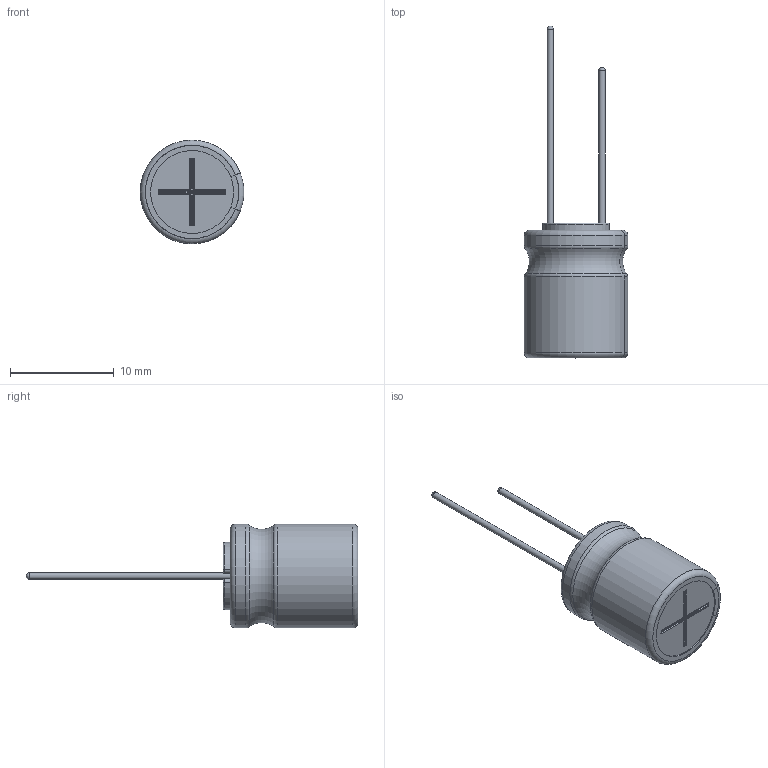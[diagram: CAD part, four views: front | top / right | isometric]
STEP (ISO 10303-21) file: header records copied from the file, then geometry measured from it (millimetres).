
FILE_DESCRIPTION(/* description */ (''),/* implementation_level */ '2;1');
FILE_NAME(/* name */ '10x13_Lead.stp',/* time_stamp */ '2017-09-05T14:07:08+09:00',/* author */ (''),/* organization */ (''),/* preprocessor_version */ 'ST-DEVELOPER v16',/* originating_system */ 'SIEMENS PLM Software NX 11.0',/* authorisation */ '');
FILE_SCHEMA (('AUTOMOTIVE_DESIGN { 1 0 10303 214 3 1 1 1 }'));
Length unit declared in the file: millimetre
Products named in the file (1): 10x13_Lead_0
Bounding box: 9.99 x 32 x 10 mm (x, y, z)
Volume: 960 mm3; surface area: 1453.2 mm2
Topology: 3 solids, 3 shells, 115 faces, 288 edges, 181 vertices
Faces by surface type: cylinder 44, torus 33, plane 28, sphere 6, bspline 4
Full cylindrical faces by diameter (mm): 0.6 x2, 9.8 x2
Entity records: 4020 total; most frequent: CARTESIAN_POINT 680, DIRECTION 664, ORIENTED_EDGE 544, AXIS2_PLACEMENT_3D 280, EDGE_CURVE 272, VERTEX_POINT 176, CIRCLE 160, EDGE_LOOP 128
